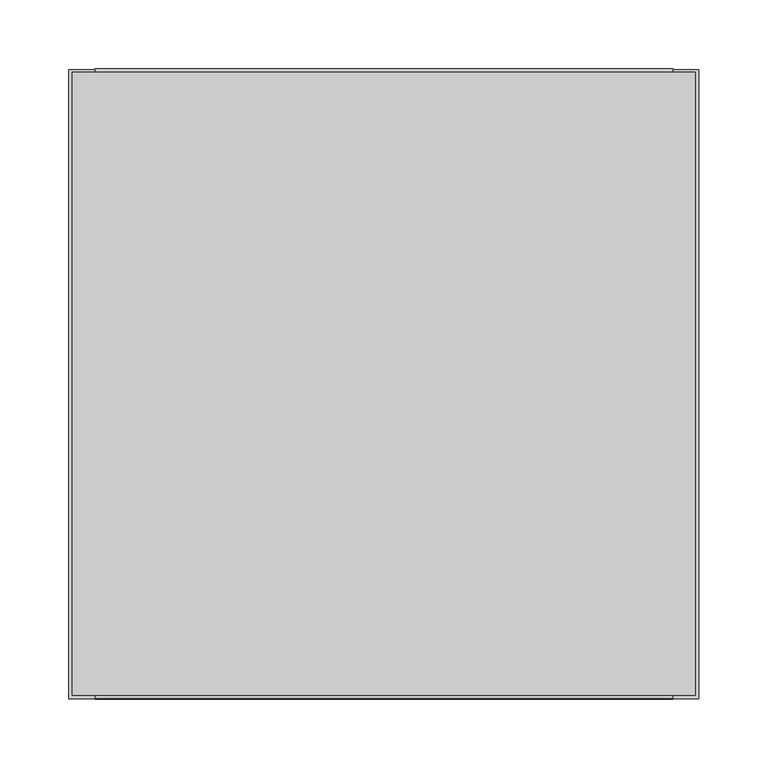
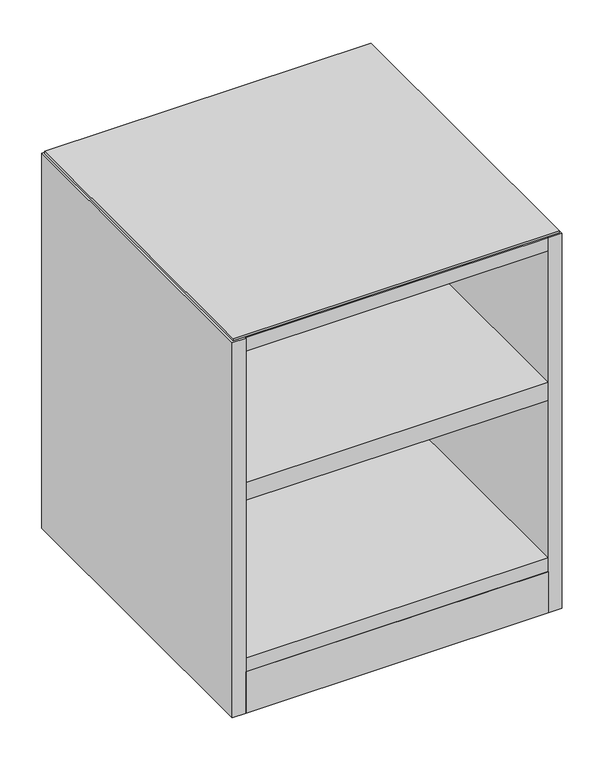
"""IFC4 building model written with IfcOpenShell, lengths in millimetres: furniture geometry, Geiger_GeigerOneCasegoods_LowStorageOpen : Vertical Veneer 18Wx 18Dx21.75H."""

import ifcopenshell
import ifcopenshell.guid

model = None  # the IFC model being written
_history = None  # IfcOwnerHistory: only IFC2X3 demands one
_inside = {}  # id of a spatial element -> (the spatial element, [elements in it])
_under = {}  # id of a project, library or spatial element -> (it, [spatial elements below it])
_declared = {}  # id of a project -> (the project, [libraries it declares])
_typed = {}  # id of a type object -> (the type object, [elements of that type])
_made_of = {}  # id of a material, layer set ... -> (it, [elements and type objects made of it])


def new_model(schema):
    """Start an empty IFC model of exactly this schema.

    Asked for "IFC4X3", IfcOpenShell would pick the latest addendum, in which some entities
    have other attributes; the version numbers below select the first issue.
    IFC2X3 requires an IfcOwnerHistory on every rooted entity: one is made here for all.
    """
    global model, _history
    if schema == "IFC4X3":
        model = ifcopenshell.file(schema_version=(4, 3, 0, 0))
    else:
        model = ifcopenshell.file(schema=schema)
    _inside.clear()
    _under.clear()
    _declared.clear()
    _typed.clear()
    _made_of.clear()
    _history = None
    if model.schema == "IFC2X3":
        org = make("IfcOrganization", Name="unknown")
        user = make(
            "IfcPersonAndOrganization",
            ThePerson=make("IfcPerson", FamilyName="unknown"),
            TheOrganization=org,
        )
        app = make(
            "IfcApplication",
            ApplicationDeveloper=org,
            Version="unknown",
            ApplicationFullName="unknown",
            ApplicationIdentifier="unknown",
        )
        _history = make(
            "IfcOwnerHistory",
            OwningUser=user,
            OwningApplication=app,
            ChangeAction="ADDED",
            CreationDate=0,
        )
    return model


def make(cls, **values):
    """One entity of the class cls with the attributes given. An attribute that is None is left unset."""
    return model.create_entity(
        cls, **{name: value for name, value in values.items() if value is not None}
    )


def rooted(cls, **values):
    """An entity with a GlobalId (a new one), such as an element, a storey or a relation."""
    return make(cls, GlobalId=ifcopenshell.guid.new(), OwnerHistory=_history, **values)


def si_unit(unit_type, name, prefix=None):
    """IfcSIUnit, for example si_unit("LENGTHUNIT", "METRE", prefix="MILLI")."""
    return make("IfcSIUnit", UnitType=unit_type, Prefix=prefix, Name=name)


def assignment(units):
    """IfcUnitAssignment: the units of a project."""
    return None if units is None else make("IfcUnitAssignment", Units=units)


def point(xyz):
    """IfcCartesianPoint."""
    return None if xyz is None else make("IfcCartesianPoint", Coordinates=xyz)


def direction(xyz):
    """IfcDirection."""
    return None if xyz is None else make("IfcDirection", DirectionRatios=xyz)


def frame(location, z_axis=None, x_axis=None):
    """IfcAxis2Placement3D, a coordinate frame: its origin and axes. An axis left out is left unset."""
    return make(
        "IfcAxis2Placement3D",
        Location=point(location),
        Axis=direction(z_axis),
        RefDirection=direction(x_axis),
    )


def origin():
    """The frame at (0, 0, 0) with its axes left unset."""
    return frame((0.0, 0.0, 0.0))


def place(relative_to, where):
    """IfcLocalPlacement: puts the frame where relative to a parent placement (None: the world)."""
    return make(
        "IfcLocalPlacement", PlacementRelTo=relative_to, RelativePlacement=where
    )


def context(
    kind, dimensions, precision=None, world=None, true_north=None, identifier=None
):
    """IfcGeometricRepresentationContext, for example the 3D "Model" context."""
    return make(
        "IfcGeometricRepresentationContext",
        ContextIdentifier=identifier,
        ContextType=kind,
        CoordinateSpaceDimension=dimensions,
        Precision=precision,
        WorldCoordinateSystem=world,
        TrueNorth=true_north,
    )


def project(units=None, contexts=None):
    """IfcProject with its units and contexts."""
    return rooted(
        "IfcProject",
        Name="project",
        RepresentationContexts=contexts,
        UnitsInContext=assignment(units),
    )


def spatial(cls, under=None, at=None, **own):
    """A site, building, storey or space (cls), placed at a placement, below another one or the project."""
    s = rooted(cls, ObjectPlacement=at, **own)
    if under is not None:
        _under.setdefault(under.id(), (under, []))[1].append(s)
    return s


def polyline(points):
    """IfcPolyline through the points."""
    return make("IfcPolyline", Points=[point(p) for p in points])


def circle_curve(where, radius):
    """IfcCircle in the frame where."""
    return make("IfcCircle", Position=where, Radius=radius)


def ellipse_curve(where, semi_axis1, semi_axis2):
    """IfcEllipse in the frame where."""
    return make(
        "IfcEllipse", Position=where, SemiAxis1=semi_axis1, SemiAxis2=semi_axis2
    )


def trimmed(basis, trim1, trim2, sense, master):
    """IfcTrimmedCurve: the piece of a basis curve between two trims."""
    return make(
        "IfcTrimmedCurve",
        BasisCurve=basis,
        Trim1=trim1,
        Trim2=trim2,
        SenseAgreement=sense,
        MasterRepresentation=master,
    )


def outline(outer, holes=None, kind="AREA"):
    """IfcArbitraryClosedProfileDef: a profile drawn as a closed curve; with holes, ...WithVoids."""
    if holes is None:
        return make("IfcArbitraryClosedProfileDef", ProfileType=kind, OuterCurve=outer)
    return make(
        "IfcArbitraryProfileDefWithVoids",
        ProfileType=kind,
        OuterCurve=outer,
        InnerCurves=holes,
    )


def extrude(swept, where, along, depth):
    """IfcExtrudedAreaSolid: the profile swept, set in the frame where, extruded along a direction by depth."""
    return make(
        "IfcExtrudedAreaSolid",
        SweptArea=swept,
        Position=where,
        ExtrudedDirection=direction(along),
        Depth=depth,
    )


def shape(context_of_items, identifier, shape_type, items):
    """IfcShapeRepresentation: the items that make up one representation, for example the "Body"."""
    return make(
        "IfcShapeRepresentation",
        ContextOfItems=context_of_items,
        RepresentationIdentifier=identifier,
        RepresentationType=shape_type,
        Items=items,
    )


def source(mapping_origin, context_of_items, identifier, shape_type, items):
    """IfcRepresentationMap: a shape defined once, which mapped items show again and again."""
    return make(
        "IfcRepresentationMap",
        MappingOrigin=mapping_origin,
        MappedRepresentation=shape(context_of_items, identifier, shape_type, items),
    )


def transform(
    local_origin,
    x_axis=None,
    y_axis=None,
    z_axis=None,
    scale=None,
    scale2=None,
    scale3=None,
    uniform=True,
):
    """IfcCartesianTransformationOperator3D, or its non-uniform kind. x_axis, y_axis, z_axis: its Axis1, 2, 3."""
    if uniform:
        return make(
            "IfcCartesianTransformationOperator3D",
            Axis1=direction(x_axis),
            Axis2=direction(y_axis),
            LocalOrigin=point(local_origin),
            Scale=scale,
            Axis3=direction(z_axis),
        )
    return make(
        "IfcCartesianTransformationOperator3DnonUniform",
        Axis1=direction(x_axis),
        Axis2=direction(y_axis),
        LocalOrigin=point(local_origin),
        Scale=scale,
        Axis3=direction(z_axis),
        Scale2=scale2,
        Scale3=scale3,
    )


def mapped(mapping_source, mapping_target):
    """IfcMappedItem: shows the shape of a source again, moved by a transform."""
    return make(
        "IfcMappedItem", MappingSource=mapping_source, MappingTarget=mapping_target
    )


def made_of(thing, what):
    """Note that an element or type object is made of a material, layer set ...; save() writes the relation."""
    if what is not None:
        _made_of.setdefault(what.id(), (what, []))[1].append(thing)
    return thing


def element(
    cls,
    number,
    at=None,
    inside=None,
    cuts=None,
    type_object=None,
    material=None,
    context=None,
    identifier="Body",
    shape_type=None,
    held_by="IfcProductDefinitionShape",
    body=None,
    shapes=None,
    **own,
):
    """One element of the class cls, such as IfcWall. Its Tag is "e" and its number.

    at: its placement. inside: the storey or other place that contains it. cuts: it is an
    opening in that element (IfcRelVoidsElement). A single representation is given by context,
    identifier, shape_type and body (its items); several are given by shapes. held_by: the class
    of the entity that holds the representations. save() writes the other relations.
    """
    e = rooted(cls, Tag="e%d" % number, ObjectPlacement=at, **own)
    if body is not None:
        shapes = [shape(context, identifier, shape_type, body)]
    if shapes is not None:
        e.Representation = make(held_by, Representations=shapes)
    if inside is not None:
        _inside.setdefault(inside.id(), (inside, []))[1].append(e)
    if cuts is not None:
        rooted(
            "IfcRelVoidsElement", RelatingBuildingElement=cuts, RelatedOpeningElement=e
        )
    if type_object is not None:
        _typed.setdefault(type_object.id(), (type_object, []))[1].append(e)
    return made_of(e, material)


def aggregate(whole, parts):
    """IfcRelAggregates: a whole, such as a stair, and the parts it consists of."""
    return rooted("IfcRelAggregates", RelatingObject=whole, RelatedObjects=parts)


def save(model, path):
    """Write the relations noted so far, then the file.

    IfcRelAggregates (storeys below a building ...), IfcRelContainedInSpatialStructure (elements
    in a storey), IfcRelDefinesByType, IfcRelAssociatesMaterial and IfcRelDeclares: one each for
    every whole, place, type object, material and project.
    """
    for whole, parts in _under.values():
        aggregate(whole, parts)
    for where, things in _inside.values():
        rooted(
            "IfcRelContainedInSpatialStructure",
            RelatedElements=things,
            RelatingStructure=where,
        )
    for kind, things in _typed.values():
        rooted("IfcRelDefinesByType", RelatedObjects=things, RelatingType=kind)
    for what, things in _made_of.values():
        rooted("IfcRelAssociatesMaterial", RelatedObjects=things, RelatingMaterial=what)
    for by, libraries in _declared.values():
        rooted("IfcRelDeclares", RelatingContext=by, RelatedDefinitions=libraries)
    model.write(path)


def plane_surface(at):
    """IfcPlane: the flat surface through the origin of the frame at, square to its z axis."""
    return make("IfcPlane", Position=at)


def cylinder_surface(at, radius):
    """IfcCylindricalSurface: all points at the distance radius from the z axis of the frame at."""
    return make("IfcCylindricalSurface", Position=at, Radius=radius)


def revolved_surface(curve, axis_point, axis_direction):
    """IfcSurfaceOfRevolution: the curve turned about the line through axis_point along axis_direction."""
    return make(
        "IfcSurfaceOfRevolution",
        SweptCurve=make("IfcArbitraryOpenProfileDef", ProfileType="CURVE", Curve=curve),
        AxisPosition=make("IfcAxis1Placement", Location=point(axis_point), Axis=direction(axis_direction)),
    )


def advanced_brep(points, edges, surfaces, faces):
    """IfcAdvancedBrep: a solid bounded by faces that lie on surfaces and meet in shared edges.

    An edge is (start, end): straight between two places in points (the first is 0);
    or (start, end, curve); or (start, end, curve, False) where it runs against its curve.
    A face is (place in surfaces, loops), or (place, loops, False) where it looks against
    its surface's normal. A loop lists edges by number (the first is 1), with a minus sign
    where the edge is run from its end to its start. The first loop is the outer one.
    """
    corners = [point(p) for p in points]
    vertices = [make("IfcVertexPoint", VertexGeometry=c) for c in corners]
    made = []
    for start, end, *more in edges:
        made.append(
            make(
                "IfcEdgeCurve",
                EdgeStart=vertices[start],
                EdgeEnd=vertices[end],
                EdgeGeometry=more[0] if more else make("IfcPolyline", Points=[corners[start], corners[end]]),
                SameSense=more[1] if len(more) > 1 else True,
            )
        )
    hull = []
    for where, loops, *sense in faces:
        bounds = []
        for j, loop in enumerate(loops):
            ring = [make("IfcOrientedEdge", EdgeElement=made[abs(k) - 1], Orientation=k > 0) for k in loop]
            bounds.append(
                make(
                    "IfcFaceOuterBound" if j == 0 else "IfcFaceBound",
                    Bound=make("IfcEdgeLoop", EdgeList=ring),
                    Orientation=True,
                )
            )
        hull.append(make("IfcAdvancedFace", Bounds=bounds, FaceSurface=surfaces[where], SameSense=sense[0] if sense else True))
    return make("IfcAdvancedBrep", Outer=make("IfcClosedShell", CfsFaces=hull))


def furniture_d5114e64(model_context):
    return source(origin(), model_context, "Body", "SolidModel", [
        extrude(outline(polyline([(19.0, -19.5), (438.2, -19.5), (438.2, -437.7), (19.0, -437.7), (19.0, -19.5)])), frame((0.0, 0.0, 12.7), z_axis=(0.0, 0.0, 1.0), x_axis=(1.0, 0.0, 0.0)), (0.0, 0.0, 1.0), 19.5),
        extrude(outline(polyline([(454.66, -2.54), (454.66, -454.66), (2.54, -454.66), (2.54, -2.54), (454.66, -2.54)])), frame((0.0, 0.0, 561.7), z_axis=(0.0, 0.0, 1.0), x_axis=(1.0, 0.0, 0.0)), (0.0, 0.0, 1.0), 3.2766),
        extrude(outline(polyline([(19.0, -95.7), (438.2, -95.7), (438.2, -456.7), (19.0, -456.7), (19.0, -95.7)])), frame((0.0, 0.0, 542.2), z_axis=(0.0, 0.0, 1.0), x_axis=(1.0, 0.0, 0.0)), (0.0, 0.0, 1.0), 19.5),
        extrude(outline(polyline([(19.0, -95.5), (438.2, -95.5), (438.2, -114.5), (19.0, -114.5), (19.0, -95.5)])), frame((0.0, 0.0, 73.2), z_axis=(0.0, 0.0, 1.0), x_axis=(1.0, 0.0, 0.0)), (0.0, 0.0, 1.0), 437.0),
        extrude(outline(polyline([(19.0, -114.5), (438.2, -114.5), (438.2, -456.7), (19.0, -456.7), (19.0, -114.5)])), frame((0.0, 0.0, 323.7992), z_axis=(0.0, 0.0, 1.0), x_axis=(1.0, 0.0, 0.0)), (0.0, 0.0, 1.0), 26.0008),
        extrude(outline(polyline([(19.0, -114.5), (438.2, -114.5), (438.2, -456.7), (19.0, -456.7), (19.0, -114.5)])), frame((0.0, 0.0, 73.2), z_axis=(0.0, 0.0, 1.0), x_axis=(1.0, 0.0, 0.0)), (0.0, 0.0, 1.0), 19.5),
        extrude(outline(polyline([(438.2, -19.5), (19.0, -19.5), (19.0, 0.0), (438.2, 0.0), (438.2, -19.5)])), frame((0.0, 0.0, 12.7), z_axis=(0.0, 0.0, 1.0), x_axis=(1.0, 0.0, 0.0)), (0.0, 0.0, 1.0), 549.0),
        extrude(outline(polyline([(19.0, -437.7), (438.2, -437.7), (438.2, -457.2), (19.0, -457.2), (19.0, -437.7)])), frame((0.0, 0.0, 12.7), z_axis=(0.0, 0.0, 1.0), x_axis=(1.0, 0.0, 0.0)), (0.0, 0.0, 1.0), 60.5),
        extrude(outline(polyline([(19.0, -457.2), (0.0, -457.2), (0.0, -0.5), (19.0, -0.5), (19.0, -457.2)])), frame((0.0, 0.0, 12.7), z_axis=(0.0, 0.0, 1.0), x_axis=(1.0, 0.0, 0.0)), (0.0, 0.0, 1.0), 549.0),
        extrude(outline(polyline([(457.2, -457.2), (438.2, -457.2), (438.2, -0.5), (457.2, -0.5), (457.2, -457.2)])), frame((0.0, 0.0, 12.7), z_axis=(0.0, 0.0, 1.0), x_axis=(1.0, 0.0, 0.0)), (0.0, 0.0, 1.0), 549.0),
        advanced_brep(
        [(94.0575663, -399.7, 0.0), (71.9424337, -399.7, 0.0), (83.0, -399.7, 0.0), (94.0575663, -399.7, 9.5), (71.9424337, -399.7, 9.5), (87.066455, -399.7, 9.5), (78.933545, -399.7, 9.5), (87.066455, -399.7, 12.7), (78.933545, -399.7, 12.7), (83.0, -399.7, 12.7)],
        [
            (0, 1, circle_curve(frame((83.0, -399.7, 0.0), z_axis=(0.0, 0.0, -1.0), x_axis=(-1.0, 0.0, 0.0)), 11.0575663)),
            (1, 2),
            (2, 0),
            (1, 0, circle_curve(frame((83.0, -399.7, 0.0), z_axis=(0.0, 0.0, -1.0), x_axis=(-1.0, 0.0, 0.0)), 11.0575663)),
            (0, 3, circle_curve(frame((94.0575663, -399.7, 4.75), z_axis=(0.0, -1.0, 0.0), x_axis=(1.0, 0.0, 0.0)), 4.75)),
            (3, 4, circle_curve(frame((83.0, -399.7, 9.5), z_axis=(0.0, 0.0, -1.0), x_axis=(-1.0, 0.0, 0.0)), 11.0575663)),
            (4, 1, circle_curve(frame((71.9424337, -399.7, 4.75), z_axis=(0.0, -1.0, 0.0), x_axis=(-1.0, 0.0, 0.0)), 4.75)),
            (4, 3, circle_curve(frame((83.0, -399.7, 9.5), z_axis=(0.0, 0.0, -1.0), x_axis=(-1.0, 0.0, 0.0)), 11.0575663)),
            (3, 5),
            (5, 6, circle_curve(frame((83.0, -399.7, 9.5), z_axis=(0.0, 0.0, -1.0), x_axis=(-1.0, 0.0, 0.0)), 4.066455)),
            (6, 4),
            (6, 5, circle_curve(frame((83.0, -399.7, 9.5), z_axis=(0.0, 0.0, -1.0), x_axis=(-1.0, 0.0, 0.0)), 4.066455)),
            (5, 7),
            (7, 8, circle_curve(frame((83.0, -399.7, 12.7), z_axis=(0.0, 0.0, -1.0), x_axis=(-1.0, 0.0, 0.0)), 4.066455)),
            (8, 6),
            (8, 7, circle_curve(frame((83.0, -399.7, 12.7), z_axis=(0.0, 0.0, -1.0), x_axis=(-1.0, 0.0, 0.0)), 4.066455)),
            (7, 9),
            (9, 8),
        ],
        [
            plane_surface(frame((83.0, -399.7, 0.0), z_axis=(0.0, 0.0, -1.0), x_axis=(-1.0, 0.0, 0.0))),
            revolved_surface(trimmed(ellipse_curve(frame((71.9424337, -399.7, 4.75), z_axis=(0.0, 1.0, 0.0), x_axis=(-1.0, 0.0, 0.0)), 4.75, 4.75), [point((71.9424337, -399.7, 0.0))], [point((71.9424337, -399.7, 9.5))], True, "CARTESIAN"), (83.0, -399.7, 0.0), (0.0, 0.0, 1.0)),
            plane_surface(frame((83.0, -399.7, 9.5), z_axis=(0.0, 0.0, 1.0), x_axis=(-1.0, 0.0, 0.0))),
            cylinder_surface(frame((83.0, -399.7, 0.0), z_axis=(0.0, 0.0, 1.0), x_axis=(-1.0, 0.0, 0.0)), 4.066455),
            plane_surface(frame((83.0, -399.7, 12.7), z_axis=(0.0, 0.0, 1.0), x_axis=(-1.0, 0.0, 0.0))),
        ],
        [
            (0, [[1, 2, 3]]),
            (0, [[-2, 4, -3]]),
            (1, [[-1, 5, 6, 7]]),
            (1, [[-4, -7, 8, -5]]),
            (2, [[-6, 9, 10, 11]]),
            (2, [[-8, -11, 12, -9]]),
            (3, [[-10, 13, 14, 15]]),
            (3, [[-12, -15, 16, -13]]),
            (4, [[-14, 17, 18]]),
            (4, [[-16, -18, -17]]),
        ],
    ),
        advanced_brep(
        [(94.0575663, -127.0, 0.0), (71.9424337, -127.0, 0.0), (83.0, -127.0, 0.0), (94.0575663, -127.0, 9.5), (71.9424337, -127.0, 9.5), (87.066455, -127.0, 9.5), (78.933545, -127.0, 9.5), (87.066455, -127.0, 12.7), (78.933545, -127.0, 12.7), (83.0, -127.0, 12.7)],
        [
            (0, 1, circle_curve(frame((83.0, -127.0, 0.0), z_axis=(0.0, 0.0, -1.0), x_axis=(-1.0, 0.0, 0.0)), 11.0575663)),
            (1, 2),
            (2, 0),
            (1, 0, circle_curve(frame((83.0, -127.0, 0.0), z_axis=(0.0, 0.0, -1.0), x_axis=(-1.0, 0.0, 0.0)), 11.0575663)),
            (0, 3, circle_curve(frame((94.0575663, -127.0, 4.75), z_axis=(0.0, -1.0, 0.0), x_axis=(1.0, 0.0, 0.0)), 4.75)),
            (3, 4, circle_curve(frame((83.0, -127.0, 9.5), z_axis=(0.0, 0.0, -1.0), x_axis=(-1.0, 0.0, 0.0)), 11.0575663)),
            (4, 1, circle_curve(frame((71.9424337, -127.0, 4.75), z_axis=(0.0, -1.0, 0.0), x_axis=(-1.0, 0.0, 0.0)), 4.75)),
            (4, 3, circle_curve(frame((83.0, -127.0, 9.5), z_axis=(0.0, 0.0, -1.0), x_axis=(-1.0, 0.0, 0.0)), 11.0575663)),
            (3, 5),
            (5, 6, circle_curve(frame((83.0, -127.0, 9.5), z_axis=(0.0, 0.0, -1.0), x_axis=(-1.0, 0.0, 0.0)), 4.066455)),
            (6, 4),
            (6, 5, circle_curve(frame((83.0, -127.0, 9.5), z_axis=(0.0, 0.0, -1.0), x_axis=(-1.0, 0.0, 0.0)), 4.066455)),
            (5, 7),
            (7, 8, circle_curve(frame((83.0, -127.0, 12.7), z_axis=(0.0, 0.0, -1.0), x_axis=(-1.0, 0.0, 0.0)), 4.066455)),
            (8, 6),
            (8, 7, circle_curve(frame((83.0, -127.0, 12.7), z_axis=(0.0, 0.0, -1.0), x_axis=(-1.0, 0.0, 0.0)), 4.066455)),
            (7, 9),
            (9, 8),
        ],
        [
            plane_surface(frame((83.0, -127.0, 0.0), z_axis=(0.0, 0.0, -1.0), x_axis=(-1.0, 0.0, 0.0))),
            revolved_surface(trimmed(ellipse_curve(frame((71.9424337, -127.0, 4.75), z_axis=(0.0, 1.0, 0.0), x_axis=(-1.0, 0.0, 0.0)), 4.75, 4.75), [point((71.9424337, -127.0, 0.0))], [point((71.9424337, -127.0, 9.5))], True, "CARTESIAN"), (83.0, -127.0, 0.0), (0.0, 0.0, 1.0)),
            plane_surface(frame((83.0, -127.0, 9.5), z_axis=(0.0, 0.0, 1.0), x_axis=(-1.0, 0.0, 0.0))),
            cylinder_surface(frame((83.0, -127.0, 0.0), z_axis=(0.0, 0.0, 1.0), x_axis=(-1.0, 0.0, 0.0)), 4.066455),
            plane_surface(frame((83.0, -127.0, 12.7), z_axis=(0.0, 0.0, 1.0), x_axis=(-1.0, 0.0, 0.0))),
        ],
        [
            (0, [[1, 2, 3]]),
            (0, [[-2, 4, -3]]),
            (1, [[-1, 5, 6, 7]]),
            (1, [[-4, -7, 8, -5]]),
            (2, [[-6, 9, 10, 11]]),
            (2, [[-8, -11, 12, -9]]),
            (3, [[-10, 13, 14, 15]]),
            (3, [[-12, -15, 16, -13]]),
            (4, [[-14, 17, 18]]),
            (4, [[-16, -18, -17]]),
        ],
    ),
        advanced_brep(
        [(374.2, -399.7, 0.0), (385.2575663, -399.7, 0.0), (363.1424337, -399.7, 0.0), (385.2575663, -399.7, 9.5), (363.1424337, -399.7, 9.5), (378.266455, -399.7, 9.5), (370.133545, -399.7, 9.5), (378.266455, -399.7, 12.7), (370.133545, -399.7, 12.7), (374.2, -399.7, 12.7)],
        [
            (0, 1),
            (1, 2, circle_curve(frame((374.2, -399.7, 0.0), z_axis=(0.0, 0.0, -1.0), x_axis=(1.0, 0.0, 0.0)), 11.0575663)),
            (2, 0),
            (2, 1, circle_curve(frame((374.2, -399.7, 0.0), z_axis=(0.0, 0.0, -1.0), x_axis=(1.0, 0.0, 0.0)), 11.0575663)),
            (1, 3, circle_curve(frame((385.2575663, -399.7, 4.75), z_axis=(0.0, -1.0, 0.0), x_axis=(-1.0, 0.0, 0.0)), 4.75)),
            (3, 4, circle_curve(frame((374.2, -399.7, 9.5), z_axis=(0.0, 0.0, -1.0), x_axis=(1.0, 0.0, 0.0)), 11.0575663)),
            (4, 2, circle_curve(frame((363.1424337, -399.7, 4.75), z_axis=(0.0, -1.0, 0.0), x_axis=(1.0, 0.0, 0.0)), 4.75)),
            (4, 3, circle_curve(frame((374.2, -399.7, 9.5), z_axis=(0.0, 0.0, -1.0), x_axis=(1.0, 0.0, 0.0)), 11.0575663)),
            (3, 5),
            (5, 6, circle_curve(frame((374.2, -399.7, 9.5), z_axis=(0.0, 0.0, -1.0), x_axis=(1.0, 0.0, 0.0)), 4.066455)),
            (6, 4),
            (6, 5, circle_curve(frame((374.2, -399.7, 9.5), z_axis=(0.0, 0.0, -1.0), x_axis=(1.0, 0.0, 0.0)), 4.066455)),
            (5, 7),
            (7, 8, circle_curve(frame((374.2, -399.7, 12.7), z_axis=(0.0, 0.0, -1.0), x_axis=(1.0, 0.0, 0.0)), 4.066455)),
            (8, 6),
            (8, 7, circle_curve(frame((374.2, -399.7, 12.7), z_axis=(0.0, 0.0, -1.0), x_axis=(1.0, 0.0, 0.0)), 4.066455)),
            (7, 9),
            (9, 8),
        ],
        [
            plane_surface(frame((374.2, -399.7, 0.0), z_axis=(0.0, 0.0, -1.0), x_axis=(1.0, 0.0, 0.0))),
            revolved_surface(trimmed(ellipse_curve(frame((385.2575663, -399.7, 4.75), z_axis=(0.0, 1.0, 0.0), x_axis=(-1.0, 0.0, 0.0)), 4.75, 4.75), [point((385.2575663, -399.7, 9.5))], [point((385.2575663, -399.7, 0.0))], True, "CARTESIAN"), (374.2, -399.7, 0.0), (0.0, 0.0, -1.0)),
            plane_surface(frame((374.2, -399.7, 9.5), z_axis=(0.0, 0.0, 1.0), x_axis=(1.0, 0.0, 0.0))),
            cylinder_surface(frame((374.2, -399.7, 0.0), z_axis=(0.0, 0.0, -1.0), x_axis=(1.0, 0.0, 0.0)), 4.066455),
            plane_surface(frame((374.2, -399.7, 12.7), z_axis=(0.0, 0.0, 1.0), x_axis=(1.0, 0.0, 0.0))),
        ],
        [
            (0, [[1, 2, 3]]),
            (0, [[-1, -3, 4]]),
            (1, [[-2, 5, 6, 7]]),
            (1, [[-4, -7, 8, -5]]),
            (2, [[-6, 9, 10, 11]]),
            (2, [[-8, -11, 12, -9]]),
            (3, [[-10, 13, 14, 15]]),
            (3, [[-12, -15, 16, -13]]),
            (4, [[-14, 17, 18]]),
            (4, [[-16, -18, -17]]),
        ],
    ),
        advanced_brep(
        [(374.2, -127.0, 0.0), (385.2575663, -127.0, 0.0), (363.1424337, -127.0, 0.0), (385.2575663, -127.0, 9.5), (363.1424337, -127.0, 9.5), (378.266455, -127.0, 9.5), (370.133545, -127.0, 9.5), (378.266455, -127.0, 12.7), (370.133545, -127.0, 12.7), (374.2, -127.0, 12.7)],
        [
            (0, 1),
            (1, 2, circle_curve(frame((374.2, -127.0, 0.0), z_axis=(0.0, 0.0, -1.0), x_axis=(1.0, 0.0, 0.0)), 11.0575663)),
            (2, 0),
            (2, 1, circle_curve(frame((374.2, -127.0, 0.0), z_axis=(0.0, 0.0, -1.0), x_axis=(1.0, 0.0, 0.0)), 11.0575663)),
            (1, 3, circle_curve(frame((385.2575663, -127.0, 4.75), z_axis=(0.0, -1.0, 0.0), x_axis=(-1.0, 0.0, 0.0)), 4.75)),
            (3, 4, circle_curve(frame((374.2, -127.0, 9.5), z_axis=(0.0, 0.0, -1.0), x_axis=(1.0, 0.0, 0.0)), 11.0575663)),
            (4, 2, circle_curve(frame((363.1424337, -127.0, 4.75), z_axis=(0.0, -1.0, 0.0), x_axis=(1.0, 0.0, 0.0)), 4.75)),
            (4, 3, circle_curve(frame((374.2, -127.0, 9.5), z_axis=(0.0, 0.0, -1.0), x_axis=(1.0, 0.0, 0.0)), 11.0575663)),
            (3, 5),
            (5, 6, circle_curve(frame((374.2, -127.0, 9.5), z_axis=(0.0, 0.0, -1.0), x_axis=(1.0, 0.0, 0.0)), 4.066455)),
            (6, 4),
            (6, 5, circle_curve(frame((374.2, -127.0, 9.5), z_axis=(0.0, 0.0, -1.0), x_axis=(1.0, 0.0, 0.0)), 4.066455)),
            (5, 7),
            (7, 8, circle_curve(frame((374.2, -127.0, 12.7), z_axis=(0.0, 0.0, -1.0), x_axis=(1.0, 0.0, 0.0)), 4.066455)),
            (8, 6),
            (8, 7, circle_curve(frame((374.2, -127.0, 12.7), z_axis=(0.0, 0.0, -1.0), x_axis=(1.0, 0.0, 0.0)), 4.066455)),
            (7, 9),
            (9, 8),
        ],
        [
            plane_surface(frame((374.2, -127.0, 0.0), z_axis=(0.0, 0.0, -1.0), x_axis=(1.0, 0.0, 0.0))),
            revolved_surface(trimmed(ellipse_curve(frame((385.2575663, -127.0, 4.75), z_axis=(0.0, 1.0, 0.0), x_axis=(-1.0, 0.0, 0.0)), 4.75, 4.75), [point((385.2575663, -127.0, 9.5))], [point((385.2575663, -127.0, 0.0))], True, "CARTESIAN"), (374.2, -127.0, 0.0), (0.0, 0.0, -1.0)),
            plane_surface(frame((374.2, -127.0, 9.5), z_axis=(0.0, 0.0, 1.0), x_axis=(1.0, 0.0, 0.0))),
            cylinder_surface(frame((374.2, -127.0, 0.0), z_axis=(0.0, 0.0, -1.0), x_axis=(1.0, 0.0, 0.0)), 4.066455),
            plane_surface(frame((374.2, -127.0, 12.7), z_axis=(0.0, 0.0, 1.0), x_axis=(1.0, 0.0, 0.0))),
        ],
        [
            (0, [[1, 2, 3]]),
            (0, [[-1, -3, 4]]),
            (1, [[-2, 5, 6, 7]]),
            (1, [[-4, -7, 8, -5]]),
            (2, [[-6, 9, 10, 11]]),
            (2, [[-8, -11, 12, -9]]),
            (3, [[-10, 13, 14, 15]]),
            (3, [[-12, -15, 16, -13]]),
            (4, [[-14, 17, 18]]),
            (4, [[-16, -18, -17]]),
        ],
    ),
    ])


if __name__ == "__main__":
    model = new_model("IFC4")
    model_context = context("Model", 3, world=origin())
    ifc_project = project(units=[si_unit("LENGTHUNIT", "METRE", prefix="MILLI")], contexts=[model_context])
    site = spatial("IfcSite", under=ifc_project)
    building = spatial("IfcBuilding", under=site)
    placement = place(None, origin())
    furniture_shape = furniture_d5114e64(model_context)
    element("IfcFurniture", 1, ObjectType="Geiger_GeigerOneCasegoods_LowStorageOpen : Vertical Veneer 18Wx 18Dx21.75H", at=placement, inside=building, context=model_context, shape_type="MappedRepresentation", body=[
        mapped(furniture_shape, transform((0.0, 0.0, 0.0), x_axis=(1.0, 0.0, 0.0), y_axis=(0.0, 1.0, 0.0), z_axis=(0.0, 0.0, 1.0))),
    ])
    save(model, "model.ifc")
